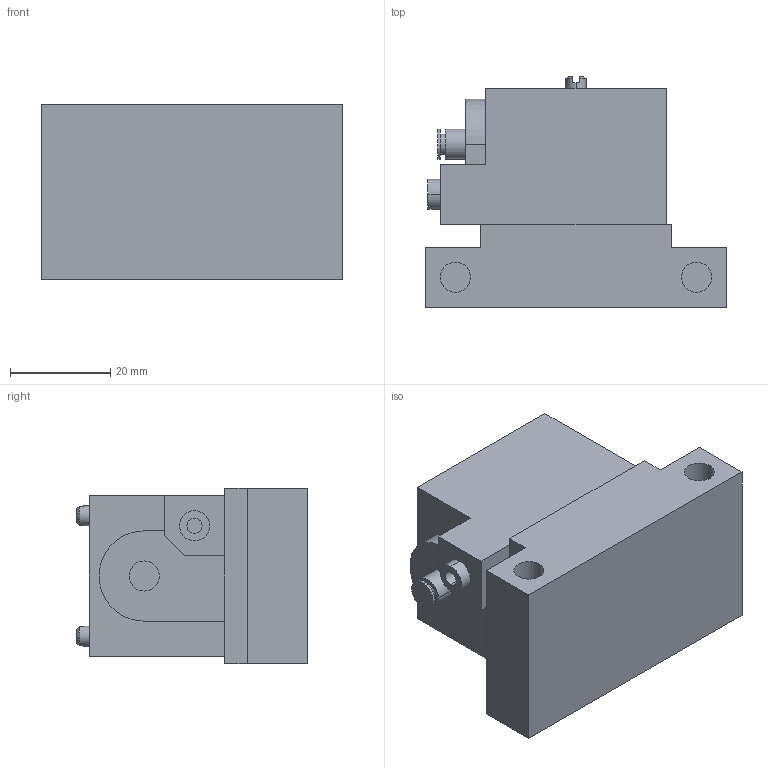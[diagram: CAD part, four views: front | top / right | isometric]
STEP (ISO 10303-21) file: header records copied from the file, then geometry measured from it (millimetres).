
FILE_DESCRIPTION((''),'2;1');
FILE_NAME('5510200000','2016-07-05T',('tng2hc'),(''),'PRO/ENGINEER BY PARAMETRIC TECHNOLOGY CORPORATION, 2012421','PRO/ENGINEER BY PARAMETRIC TECHNOLOGY CORPORATION, 2012421','');
FILE_SCHEMA(('CONFIG_CONTROL_DESIGN','SHAPE_APPEARANCE_LAYERS_GROUPS'));
Length unit declared in the file: millimetre
Products named in the file (1): 5510200000
Bounding box: 60 x 46 x 35 mm (x, y, z)
Volume: 64213.9 mm3; surface area: 12345.6 mm2
Topology: 1 solids, 1 shells, 69 faces, 166 edges, 110 vertices
Faces by surface type: plane 42, cylinder 23, cone 4
Entity records: 2098 total; most frequent: CARTESIAN_POINT 379, DIRECTION 354, ORIENTED_EDGE 332, EDGE_CURVE 166, AXIS2_PLACEMENT_3D 127, VERTEX_POINT 110, VECTOR 100, LINE 100
